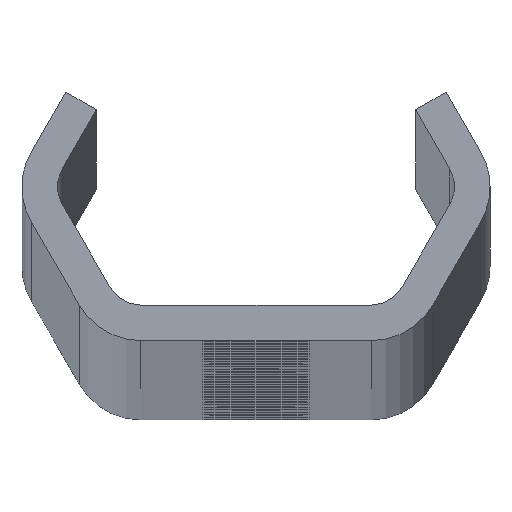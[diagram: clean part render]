
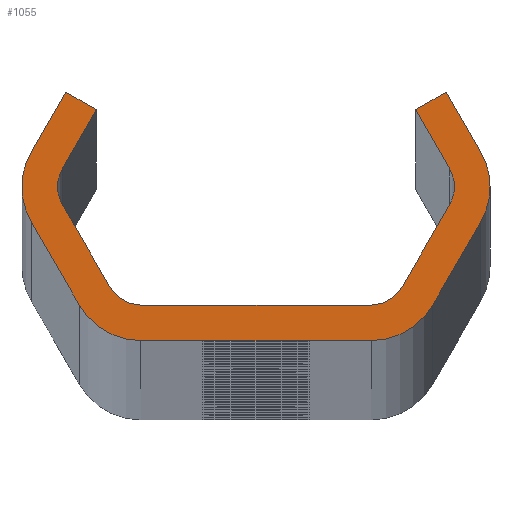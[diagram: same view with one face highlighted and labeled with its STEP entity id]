
A CAD part, top view. The second image highlights one B-rep face of the part: STEP entity #1055.
In plain terms, the highlighted planar face has unit normal (0, 0, 1).
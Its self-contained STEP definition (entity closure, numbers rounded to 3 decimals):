
#1055=ADVANCED_FACE('NONE',(#2965),#2966,.F.);
#2965=FACE_OUTER_BOUND('',#9747,.T.);
#2966=PLANE('',#9748);
#9747=EDGE_LOOP('',(#19795,#19796,#19797,#19798,#19799,#19800,#19801,#19802,#19803,#19804,#19805,#19806,#19807,#19808,#19809,#19810,#19811,#19812,#19813,#19814,#19815,#19816,#19817,#19818));
#9748=AXIS2_PLACEMENT_3D('',#19819,#19820,#19821);
#19795=ORIENTED_EDGE('',*,*,#26421,.T.);
#19796=ORIENTED_EDGE('',*,*,#26480,.T.);
#19797=ORIENTED_EDGE('',*,*,#25883,.T.);
#19798=ORIENTED_EDGE('',*,*,#26423,.T.);
#19799=ORIENTED_EDGE('',*,*,#26481,.T.);
#19800=ORIENTED_EDGE('',*,*,#26427,.T.);
#19801=ORIENTED_EDGE('',*,*,#26482,.T.);
#19802=ORIENTED_EDGE('',*,*,#25890,.T.);
#19803=ORIENTED_EDGE('',*,*,#26483,.T.);
#19804=ORIENTED_EDGE('',*,*,#25396,.T.);
#19805=ORIENTED_EDGE('',*,*,#25893,.T.);
#19806=ORIENTED_EDGE('',*,*,#25899,.T.);
#19807=ORIENTED_EDGE('',*,*,#25902,.T.);
#19808=ORIENTED_EDGE('',*,*,#25880,.T.);
#19809=ORIENTED_EDGE('',*,*,#26484,.T.);
#19810=ORIENTED_EDGE('',*,*,#25904,.T.);
#19811=ORIENTED_EDGE('',*,*,#26485,.T.);
#19812=ORIENTED_EDGE('',*,*,#25911,.T.);
#19813=ORIENTED_EDGE('',*,*,#26486,.T.);
#19814=ORIENTED_EDGE('',*,*,#26408,.T.);
#19815=ORIENTED_EDGE('',*,*,#26487,.T.);
#19816=ORIENTED_EDGE('',*,*,#25391,.T.);
#19817=ORIENTED_EDGE('',*,*,#26411,.T.);
#19818=ORIENTED_EDGE('',*,*,#26417,.T.);
#19819=CARTESIAN_POINT('',(0.0,0.0,3840.0));
#19820=DIRECTION('',(0.0,0.0,-1.0));
#19821=DIRECTION('',(0.0,-1.0,0.0));
#25391=EDGE_CURVE('NONE',#28284,#28288,#28290,.T.);
#25396=EDGE_CURVE('NONE',#28293,#28297,#28299,.T.);
#25880=EDGE_CURVE('NONE',#29170,#29168,#29171,.T.);
#25883=EDGE_CURVE('NONE',#29174,#29175,#29176,.T.);
#25890=EDGE_CURVE('NONE',#29188,#29186,#29189,.T.);
#25893=EDGE_CURVE('NONE',#28297,#29192,#29193,.T.);
#25899=EDGE_CURVE('NONE',#29192,#29200,#29202,.T.);
#25902=EDGE_CURVE('NONE',#29200,#29170,#29205,.T.);
#25904=EDGE_CURVE('NONE',#29207,#29208,#29209,.T.);
#25911=EDGE_CURVE('NONE',#29221,#29219,#29222,.T.);
#26408=EDGE_CURVE('NONE',#30142,#30140,#30143,.T.);
#26411=EDGE_CURVE('NONE',#28288,#30146,#30147,.T.);
#26417=EDGE_CURVE('NONE',#30146,#30154,#30156,.T.);
#26421=EDGE_CURVE('NONE',#30154,#30160,#30162,.T.);
#26423=EDGE_CURVE('NONE',#29175,#30164,#30165,.T.);
#26427=EDGE_CURVE('NONE',#30170,#30171,#30172,.T.);
#26480=EDGE_CURVE('NONE',#30160,#29174,#30227,.T.);
#26481=EDGE_CURVE('NONE',#30164,#30170,#30228,.T.);
#26482=EDGE_CURVE('NONE',#30171,#29188,#30229,.T.);
#26483=EDGE_CURVE('NONE',#29186,#28293,#30230,.T.);
#26484=EDGE_CURVE('NONE',#29168,#29207,#30231,.T.);
#26485=EDGE_CURVE('NONE',#29208,#29221,#30232,.T.);
#26486=EDGE_CURVE('NONE',#29219,#30142,#30233,.T.);
#26487=EDGE_CURVE('NONE',#30140,#28284,#30234,.T.);
#28284=VERTEX_POINT('',#32571);
#28288=VERTEX_POINT('NONE',#32576);
#28290=CIRCLE('',#32579,3.0);
#28293=VERTEX_POINT('',#32582);
#28297=VERTEX_POINT('NONE',#32587);
#28299=CIRCLE('',#32590,6.0);
#29168=VERTEX_POINT('NONE',#37755);
#29170=VERTEX_POINT('NONE',#37758);
#29171=CIRCLE('',#37759,3.0);
#29174=VERTEX_POINT('NONE',#37763);
#29175=VERTEX_POINT('NONE',#37764);
#29176=CIRCLE('',#37765,6.0);
#29186=VERTEX_POINT('NONE',#37778);
#29188=VERTEX_POINT('NONE',#37781);
#29189=LINE('',#37782,#37783);
#29192=VERTEX_POINT('NONE',#37787);
#29193=LINE('',#37788,#37789);
#29200=VERTEX_POINT('NONE',#37799);
#29202=LINE('',#37802,#37803);
#29205=LINE('',#37807,#37808);
#29207=VERTEX_POINT('NONE',#37810);
#29208=VERTEX_POINT('NONE',#37811);
#29209=LINE('',#37812,#37813);
#29219=VERTEX_POINT('NONE',#37827);
#29221=VERTEX_POINT('NONE',#37830);
#29222=LINE('',#37831,#37832);
#30140=VERTEX_POINT('NONE',#41152);
#30142=VERTEX_POINT('NONE',#41155);
#30143=LINE('',#41156,#41157);
#30146=VERTEX_POINT('NONE',#41161);
#30147=LINE('',#41162,#41163);
#30154=VERTEX_POINT('NONE',#41173);
#30156=LINE('',#41176,#41177);
#30160=VERTEX_POINT('NONE',#41182);
#30162=LINE('',#41185,#41186);
#30164=VERTEX_POINT('NONE',#41188);
#30165=LINE('',#41189,#41190);
#30170=VERTEX_POINT('NONE',#41197);
#30171=VERTEX_POINT('NONE',#41198);
#30172=LINE('',#41199,#41200);
#30227=CIRCLE('',#41258,6.0);
#30228=CIRCLE('',#41259,6.0);
#30229=CIRCLE('',#41260,6.0);
#30230=CIRCLE('',#41261,6.0);
#30231=CIRCLE('',#41262,3.0);
#30232=CIRCLE('',#41263,3.0);
#30233=CIRCLE('',#41264,3.0);
#30234=CIRCLE('',#41265,3.0);
#32571=CARTESIAN_POINT('',(-16.764,0.,3840.0));
#32576=CARTESIAN_POINT('',(-16.362,1.5,3840.0));
#32579=AXIS2_PLACEMENT_3D('',#49005,#49006,#49007);
#32582=CARTESIAN_POINT('',(19.764,0.,3840.0));
#32587=CARTESIAN_POINT('',(18.96,3.,3840.0));
#32590=AXIS2_PLACEMENT_3D('',#49013,#49014,#49015);
#37755=CARTESIAN_POINT('',(16.764,0.,3840.0));
#37758=CARTESIAN_POINT('',(16.362,1.5,3840.0));
#37759=AXIS2_PLACEMENT_3D('',#49500,#49501,#49502);
#37763=CARTESIAN_POINT('',(-19.764,0.,3840.0));
#37764=CARTESIAN_POINT('',(-18.96,-3.,3840.0));
#37765=AXIS2_PLACEMENT_3D('',#49504,#49505,#49506);
#37778=CARTESIAN_POINT('',(18.96,-3.,3840.0));
#37781=CARTESIAN_POINT('',(14.919,-10.,3840.0));
#37782=CARTESIAN_POINT('',(20.692,0.,3840.0));
#37783=VECTOR('',#49514,1000.0);
#37787=CARTESIAN_POINT('',(16.074,8.,3840.0));
#37788=CARTESIAN_POINT('',(16.074,8.,3840.0));
#37789=VECTOR('',#49516,1000.0);
#37799=CARTESIAN_POINT('',(13.475,6.5,3840.0));
#37802=CARTESIAN_POINT('',(13.475,6.5,3840.0));
#37803=VECTOR('',#49521,1000.0);
#37807=CARTESIAN_POINT('',(17.228,0.,3840.0));
#37808=VECTOR('',#49523,1000.0);
#37810=CARTESIAN_POINT('',(16.362,-1.5,3840.0));
#37811=CARTESIAN_POINT('',(12.321,-8.5,3840.0));
#37812=CARTESIAN_POINT('',(11.455,-10.0,3840.0));
#37813=VECTOR('',#49524,1000.0);
#37827=CARTESIAN_POINT('',(-9.723,-10.0,3840.0));
#37830=CARTESIAN_POINT('',(9.723,-10.0,3840.0));
#37831=CARTESIAN_POINT('',(-11.455,-10.0,3840.0));
#37832=VECTOR('',#49530,1000.0);
#41152=CARTESIAN_POINT('',(-16.362,-1.5,3840.0));
#41155=CARTESIAN_POINT('',(-12.321,-8.5,3840.0));
#41156=CARTESIAN_POINT('',(-17.228,0.,3840.0));
#41157=VECTOR('',#50074,1000.0);
#41161=CARTESIAN_POINT('',(-13.475,6.5,3840.0));
#41162=CARTESIAN_POINT('',(-13.475,6.5,3840.0));
#41163=VECTOR('',#50076,1000.0);
#41173=CARTESIAN_POINT('',(-16.074,8.,3840.0));
#41176=CARTESIAN_POINT('',(-13.475,6.5,3840.0));
#41177=VECTOR('',#50081,1000.0);
#41182=CARTESIAN_POINT('',(-18.96,3.,3840.0));
#41185=CARTESIAN_POINT('',(-16.074,8.,3840.0));
#41186=VECTOR('',#50084,1000.0);
#41188=CARTESIAN_POINT('',(-14.919,-10.,3840.0));
#41189=CARTESIAN_POINT('',(-20.692,0.,3840.0));
#41190=VECTOR('',#50085,1000.0);
#41197=CARTESIAN_POINT('',(-9.723,-13.0,3840.0));
#41198=CARTESIAN_POINT('',(9.723,-13.0,3840.0));
#41199=CARTESIAN_POINT('',(-13.187,-13.0,3840.0));
#41200=VECTOR('',#50088,1000.0);
#41258=AXIS2_PLACEMENT_3D('',#50236,#50237,#50238);
#41259=AXIS2_PLACEMENT_3D('',#50239,#50240,#50241);
#41260=AXIS2_PLACEMENT_3D('',#50242,#50243,#50244);
#41261=AXIS2_PLACEMENT_3D('',#50245,#50246,#50247);
#41262=AXIS2_PLACEMENT_3D('',#50248,#50249,#50250);
#41263=AXIS2_PLACEMENT_3D('',#50251,#50252,#50253);
#41264=AXIS2_PLACEMENT_3D('',#50254,#50255,#50256);
#41265=AXIS2_PLACEMENT_3D('',#50257,#50258,#50259);
#49005=CARTESIAN_POINT('',(-13.764,0.,3840.0));
#49006=DIRECTION('',(0.0,0.0,-1.0));
#49007=DIRECTION('',(-1.0,0.0,0.0));
#49013=CARTESIAN_POINT('',(13.764,0.,3840.0));
#49014=DIRECTION('',(0.0,0.0,1.0));
#49015=DIRECTION('',(-1.0,0.0,0.0));
#49500=CARTESIAN_POINT('',(13.764,0.,3840.0));
#49501=DIRECTION('',(0.0,0.0,-1.0));
#49502=DIRECTION('',(-1.0,0.0,0.0));
#49504=CARTESIAN_POINT('',(-13.764,0.,3840.0));
#49505=DIRECTION('',(0.0,0.0,1.0));
#49506=DIRECTION('',(-1.0,0.0,0.0));
#49514=DIRECTION('',(0.5,0.866,-0.0));
#49516=DIRECTION('',(-0.5,0.866,-0.0));
#49521=DIRECTION('',(-0.866,-0.5,-0.0));
#49523=DIRECTION('',(0.5,-0.866,-0.0));
#49524=DIRECTION('',(-0.5,-0.866,-0.0));
#49530=DIRECTION('',(-1.0,0.,-0.0));
#50074=DIRECTION('',(-0.5,0.866,-0.0));
#50076=DIRECTION('',(0.5,0.866,-0.0));
#50081=DIRECTION('',(-0.866,0.5,0.0));
#50084=DIRECTION('',(-0.5,-0.866,0.0));
#50085=DIRECTION('',(0.5,-0.866,0.0));
#50088=DIRECTION('',(1.0,0.0,0.0));
#50236=CARTESIAN_POINT('',(-13.764,0.,3840.0));
#50237=DIRECTION('',(0.0,0.0,1.0));
#50238=DIRECTION('',(-1.0,0.0,0.0));
#50239=CARTESIAN_POINT('',(-9.723,-7.0,3840.0));
#50240=DIRECTION('',(0.0,0.0,1.0));
#50241=DIRECTION('',(-1.0,0.0,0.0));
#50242=CARTESIAN_POINT('',(9.723,-7.0,3840.0));
#50243=DIRECTION('',(0.0,0.0,1.0));
#50244=DIRECTION('',(-1.0,0.,0.0));
#50245=CARTESIAN_POINT('',(13.764,0.,3840.0));
#50246=DIRECTION('',(0.0,0.0,1.0));
#50247=DIRECTION('',(-1.0,0.0,0.0));
#50248=CARTESIAN_POINT('',(13.764,0.,3840.0));
#50249=DIRECTION('',(0.0,0.0,-1.0));
#50250=DIRECTION('',(-1.0,0.0,0.0));
#50251=CARTESIAN_POINT('',(9.723,-7.0,3840.0));
#50252=DIRECTION('',(0.0,0.0,-1.0));
#50253=DIRECTION('',(-1.0,0.0,0.0));
#50254=CARTESIAN_POINT('',(-9.723,-7.0,3840.0));
#50255=DIRECTION('',(0.0,0.0,-1.0));
#50256=DIRECTION('',(-1.0,0.0,0.0));
#50257=CARTESIAN_POINT('',(-13.764,0.,3840.0));
#50258=DIRECTION('',(0.0,0.0,-1.0));
#50259=DIRECTION('',(-1.0,0.0,0.0));
